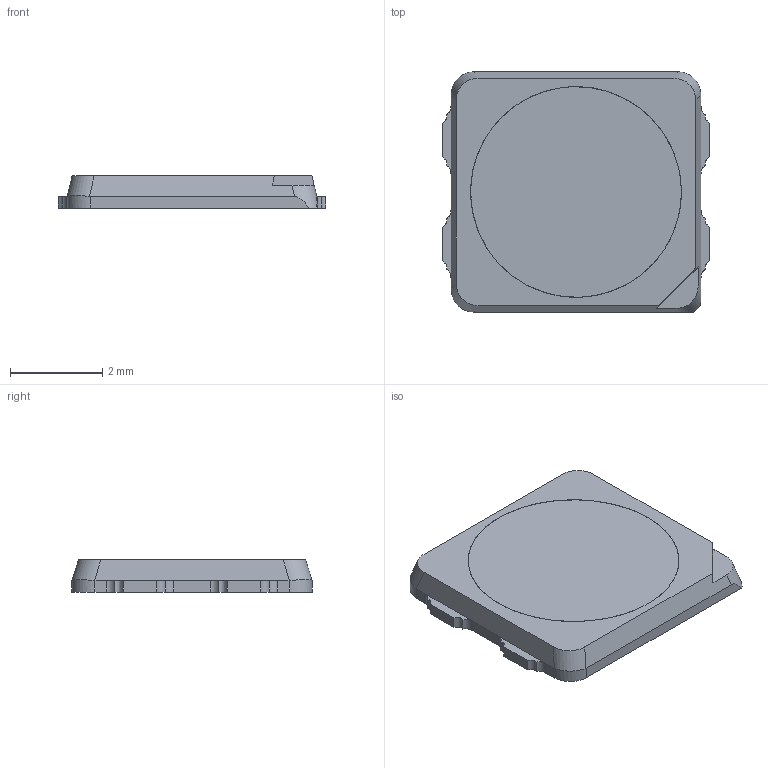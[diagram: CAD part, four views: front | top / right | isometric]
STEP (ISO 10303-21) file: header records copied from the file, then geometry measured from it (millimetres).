
FILE_DESCRIPTION (( 'STEP AP214' ), '1' );
FILE_NAME ('Ñáîðêà5050.STEP', '2023-04-11T14:47:26', ( '' ), ( '' ), 'SwSTEP 2.0', 'SolidWorks 2018', '' );
FILE_SCHEMA (( 'AUTOMOTIVE_DESIGN' ));
Length unit declared in the file: millimetre
Products named in the file (2): 栖闉罻5050
Bounding box: 5.8 x 5.2 x 0.7 mm (x, y, z)
Volume: 19.4 mm3; surface area: 144 mm2
Topology: 8 solids, 8 shells, 307 faces, 833 edges, 555 vertices
Faces by surface type: plane 171, cylinder 87, bspline 49
Entity records: 13773 total; most frequent: CARTESIAN_POINT 2761, ORIENTED_EDGE 1666, DIRECTION 1383, EDGE_CURVE 833, VERTEX_POINT 555, LINE 537, VECTOR 537, AXIS2_PLACEMENT_3D 423
